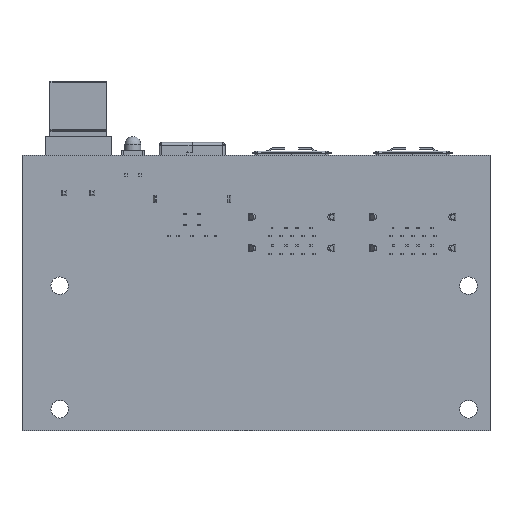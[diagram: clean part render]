
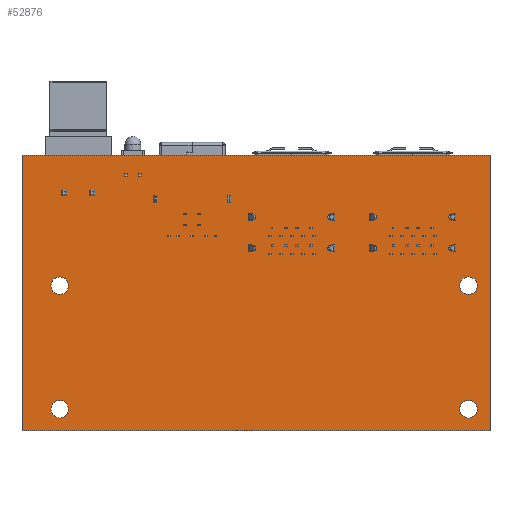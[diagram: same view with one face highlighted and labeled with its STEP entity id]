
A CAD part, front view. The second image highlights one B-rep face of the part: STEP entity #52876.
In plain terms, the highlighted planar face has unit normal (0, -1, 0).
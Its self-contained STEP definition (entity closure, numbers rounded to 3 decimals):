
#807=FACE_BOUND('',#5852,.T.);
#808=FACE_BOUND('',#5853,.T.);
#809=FACE_BOUND('',#5854,.T.);
#810=FACE_BOUND('',#5855,.T.);
#1022=PLANE('',#55985);
#3092=FACE_OUTER_BOUND('',#5851,.T.);
#5851=EDGE_LOOP('',(#35704,#35705,#35706,#35707));
#5852=EDGE_LOOP('',(#35708));
#5853=EDGE_LOOP('',(#35709));
#5854=EDGE_LOOP('',(#35710));
#5855=EDGE_LOOP('',(#35711));
#8803=LINE('',#75038,#15210);
#8807=LINE('',#75046,#15214);
#8810=LINE('',#75052,#15217);
#8813=LINE('',#75057,#15220);
#15210=VECTOR('',#60277,10.);
#15214=VECTOR('',#60283,10.);
#15217=VECTOR('',#60288,10.);
#15220=VECTOR('',#60293,10.);
#21575=CIRCLE('',#55973,1.6);
#21576=CIRCLE('',#55975,1.6);
#21577=CIRCLE('',#55977,1.6);
#21578=CIRCLE('',#55979,1.6);
#22660=VERTEX_POINT('',#75020);
#22661=VERTEX_POINT('',#75024);
#22662=VERTEX_POINT('',#75028);
#22663=VERTEX_POINT('',#75032);
#22664=VERTEX_POINT('',#75036);
#22665=VERTEX_POINT('',#75037);
#22668=VERTEX_POINT('',#75045);
#22670=VERTEX_POINT('',#75051);
#27797=EDGE_CURVE('',#22660,#22660,#21575,.T.);
#27799=EDGE_CURVE('',#22661,#22661,#21576,.T.);
#27801=EDGE_CURVE('',#22662,#22662,#21577,.T.);
#27803=EDGE_CURVE('',#22663,#22663,#21578,.T.);
#27804=EDGE_CURVE('',#22664,#22665,#8803,.T.);
#27808=EDGE_CURVE('',#22665,#22668,#8807,.T.);
#27811=EDGE_CURVE('',#22668,#22670,#8810,.T.);
#27814=EDGE_CURVE('',#22670,#22664,#8813,.T.);
#35704=ORIENTED_EDGE('',*,*,#27814,.T.);
#35705=ORIENTED_EDGE('',*,*,#27804,.T.);
#35706=ORIENTED_EDGE('',*,*,#27808,.T.);
#35707=ORIENTED_EDGE('',*,*,#27811,.T.);
#35708=ORIENTED_EDGE('',*,*,#27803,.F.);
#35709=ORIENTED_EDGE('',*,*,#27801,.F.);
#35710=ORIENTED_EDGE('',*,*,#27799,.F.);
#35711=ORIENTED_EDGE('',*,*,#27797,.F.);
#52876=ADVANCED_FACE('',(#3092,#807,#808,#809,#810),#1022,.F.);
#55973=AXIS2_PLACEMENT_3D('',#75022,#60258,#60259);
#55975=AXIS2_PLACEMENT_3D('',#75026,#60263,#60264);
#55977=AXIS2_PLACEMENT_3D('',#75030,#60268,#60269);
#55979=AXIS2_PLACEMENT_3D('',#75034,#60273,#60274);
#55985=AXIS2_PLACEMENT_3D('',#75060,#60297,#60298);
#60258=DIRECTION('center_axis',(0.,-1.,0.));
#60259=DIRECTION('ref_axis',(-1.,0.,0.));
#60263=DIRECTION('center_axis',(0.,-1.,0.));
#60264=DIRECTION('ref_axis',(-1.,0.,0.));
#60268=DIRECTION('center_axis',(0.,-1.,0.));
#60269=DIRECTION('ref_axis',(-1.,0.,0.));
#60273=DIRECTION('center_axis',(0.,-1.,0.));
#60274=DIRECTION('ref_axis',(-1.,0.,0.));
#60277=DIRECTION('',(0.,0.,1.));
#60283=DIRECTION('',(-1.,0.,0.));
#60288=DIRECTION('',(0.,0.,-1.));
#60293=DIRECTION('',(1.,0.,0.));
#60297=DIRECTION('center_axis',(0.,1.,0.));
#60298=DIRECTION('ref_axis',(-1.,0.,0.));
#75020=CARTESIAN_POINT('',(-40.03,-7.671,-21.58));
#75022=CARTESIAN_POINT('Origin',(-41.63,-7.671,-21.58));
#75024=CARTESIAN_POINT('',(34.3,-7.671,-21.58));
#75026=CARTESIAN_POINT('Origin',(32.7,-7.671,-21.58));
#75028=CARTESIAN_POINT('',(-40.03,-7.671,0.884));
#75030=CARTESIAN_POINT('Origin',(-41.63,-7.671,0.884));
#75032=CARTESIAN_POINT('',(34.3,-7.671,0.884));
#75034=CARTESIAN_POINT('Origin',(32.7,-7.671,0.884));
#75036=CARTESIAN_POINT('',(36.61,-7.671,-25.49));
#75037=CARTESIAN_POINT('',(36.61,-7.671,24.56));
#75038=CARTESIAN_POINT('',(36.61,-7.671,-25.49));
#75045=CARTESIAN_POINT('',(-48.48,-7.671,24.56));
#75046=CARTESIAN_POINT('',(36.61,-7.671,24.56));
#75051=CARTESIAN_POINT('',(-48.48,-7.671,-25.49));
#75052=CARTESIAN_POINT('',(-48.48,-7.671,24.56));
#75057=CARTESIAN_POINT('',(-48.48,-7.671,-25.49));
#75060=CARTESIAN_POINT('Origin',(-5.935,-7.671,-0.465));
